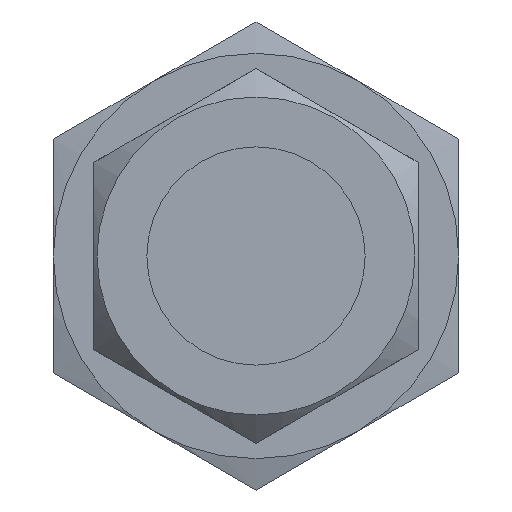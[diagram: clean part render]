
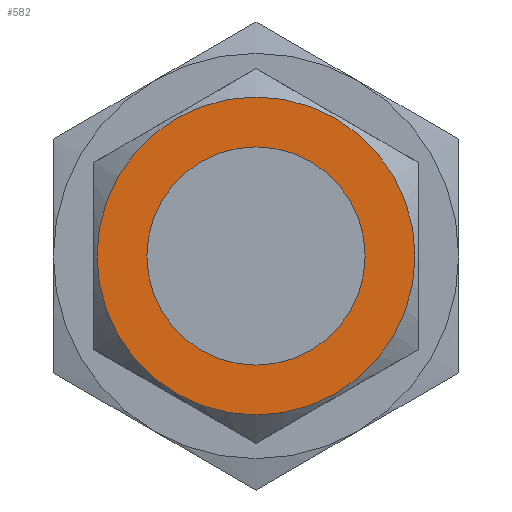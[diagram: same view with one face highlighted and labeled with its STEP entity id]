
A CAD part, left-side view. The second image highlights one B-rep face of the part: STEP entity #582.
In plain terms, the highlighted planar face has unit normal (-1, 0, 0).
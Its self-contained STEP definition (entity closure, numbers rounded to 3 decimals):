
#582 = ADVANCED_FACE( '', ( #1406, #1407 ), #1408, .T. );
#1406 = FACE_BOUND( '', #2497, .T. );
#1407 = FACE_OUTER_BOUND( '', #2498, .T. );
#1408 = PLANE( '', #2499 );
#2497 = EDGE_LOOP( '', ( #4454 ) );
#2498 = EDGE_LOOP( '', ( #4455 ) );
#2499 = AXIS2_PLACEMENT_3D( '', #4456, #4457, #4458 );
#4454 = ORIENTED_EDGE( '', *, *, #6088, .T. );
#4455 = ORIENTED_EDGE( '', *, *, #6474, .F. );
#4456 = CARTESIAN_POINT( '', ( -48.768, 18.906, -18.906 ) );
#4457 = DIRECTION( '', ( -1., 0., 0. ) );
#4458 = DIRECTION( '', ( 0., -1., 0. ) );
#6088 = EDGE_CURVE( '', #7237, #7237, #7238, .F. );
#6474 = EDGE_CURVE( '', #7823, #7823, #7824, .F. );
#7237 = VERTEX_POINT( '', #9149 );
#7238 = CIRCLE( '', #9150, 12.827 );
#7823 = VERTEX_POINT( '', #10403 );
#7824 = CIRCLE( '', #10404, 18.682 );
#9149 = CARTESIAN_POINT( '', ( -48.768, 0., 12.827 ) );
#9150 = AXIS2_PLACEMENT_3D( '', #11282, #11283, #11284 );
#10403 = CARTESIAN_POINT( '', ( -48.768, 0., 18.682 ) );
#10404 = AXIS2_PLACEMENT_3D( '', #11479, #11480, #11481 );
#11282 = CARTESIAN_POINT( '', ( -48.768, 0., 0. ) );
#11283 = DIRECTION( '', ( -1., 0., 0. ) );
#11284 = DIRECTION( '', ( 0., -1., 0. ) );
#11479 = CARTESIAN_POINT( '', ( -48.768, 0., 0. ) );
#11480 = DIRECTION( '', ( -1., 0., 0. ) );
#11481 = DIRECTION( '', ( 0., -1., 0. ) );
